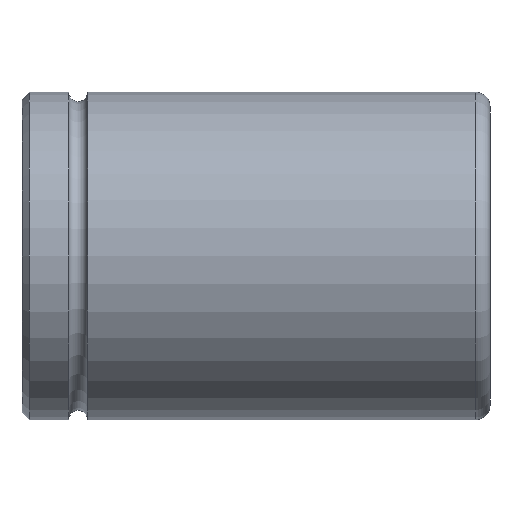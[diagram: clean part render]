
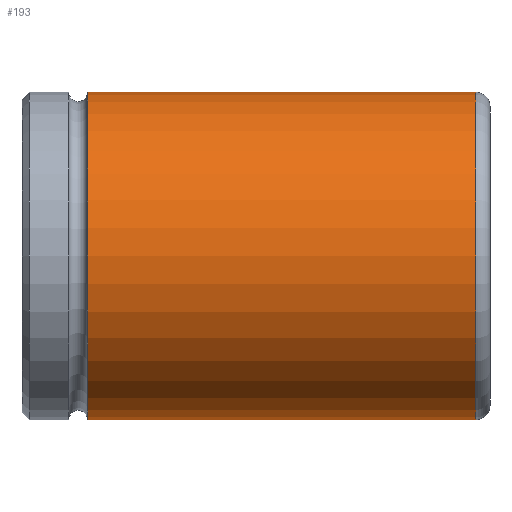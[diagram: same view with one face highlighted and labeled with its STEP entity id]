
A CAD part, front view. The second image highlights one B-rep face of the part: STEP entity #193.
In plain terms, the highlighted cylindrical face has radius 35 mm (diameter 70 mm), a full revolution.
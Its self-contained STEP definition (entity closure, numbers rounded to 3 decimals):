
#22=LINE('',#337,#28);
#28=VECTOR('',#270,35.);
#34=CYLINDRICAL_SURFACE('',#230,35.);
#40=FACE_OUTER_BOUND('',#52,.T.);
#52=EDGE_LOOP('',(#131,#132,#133,#134,#135,#136));
#68=CIRCLE('',#228,35.);
#69=CIRCLE('',#229,35.);
#70=CIRCLE('',#231,35.);
#71=CIRCLE('',#232,35.);
#86=VERTEX_POINT('',#330);
#87=VERTEX_POINT('',#332);
#88=VERTEX_POINT('',#336);
#89=VERTEX_POINT('',#338);
#103=EDGE_CURVE('',#86,#87,#68,.T.);
#104=EDGE_CURVE('',#87,#86,#69,.T.);
#105=EDGE_CURVE('',#87,#88,#22,.T.);
#106=EDGE_CURVE('',#88,#89,#70,.T.);
#107=EDGE_CURVE('',#89,#88,#71,.T.);
#131=ORIENTED_EDGE('',*,*,#104,.F.);
#132=ORIENTED_EDGE('',*,*,#105,.T.);
#133=ORIENTED_EDGE('',*,*,#106,.T.);
#134=ORIENTED_EDGE('',*,*,#107,.T.);
#135=ORIENTED_EDGE('',*,*,#105,.F.);
#136=ORIENTED_EDGE('',*,*,#103,.F.);
#193=ADVANCED_FACE('',(#40),#34,.T.);
#228=AXIS2_PLACEMENT_3D('',#333,#264,#265);
#229=AXIS2_PLACEMENT_3D('',#334,#266,#267);
#230=AXIS2_PLACEMENT_3D('',#335,#268,#269);
#231=AXIS2_PLACEMENT_3D('',#339,#271,#272);
#232=AXIS2_PLACEMENT_3D('',#340,#273,#274);
#264=DIRECTION('center_axis',(1.,0.,0.));
#265=DIRECTION('ref_axis',(0.,-1.,0.));
#266=DIRECTION('center_axis',(1.,0.,0.));
#267=DIRECTION('ref_axis',(0.,-1.,0.));
#268=DIRECTION('center_axis',(1.,0.,0.));
#269=DIRECTION('ref_axis',(0.,1.,0.));
#270=DIRECTION('',(-1.,0.,0.));
#271=DIRECTION('center_axis',(1.,0.,0.));
#272=DIRECTION('ref_axis',(0.,0.,-1.));
#273=DIRECTION('center_axis',(1.,0.,0.));
#274=DIRECTION('ref_axis',(0.,0.,-1.));
#330=CARTESIAN_POINT('',(97.,0.,35.));
#332=CARTESIAN_POINT('',(97.,-35.,0.));
#333=CARTESIAN_POINT('Origin',(97.,0.,0.));
#334=CARTESIAN_POINT('Origin',(97.,0.,0.));
#335=CARTESIAN_POINT('Origin',(57.,0.,0.));
#336=CARTESIAN_POINT('',(14.,-35.,0.));
#337=CARTESIAN_POINT('',(57.,-35.,0.));
#338=CARTESIAN_POINT('',(14.,0.,35.));
#339=CARTESIAN_POINT('Origin',(14.,0.,0.));
#340=CARTESIAN_POINT('Origin',(14.,0.,0.));
